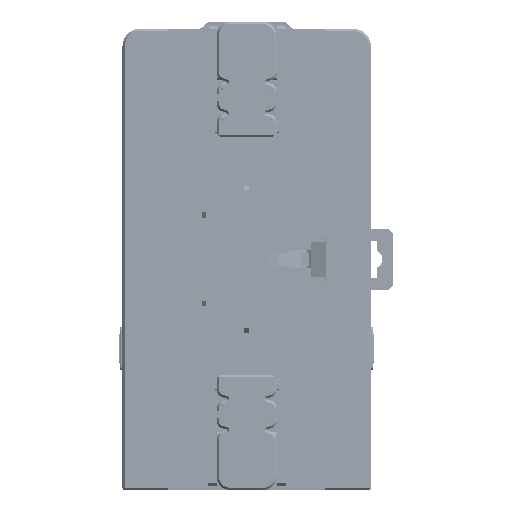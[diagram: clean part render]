
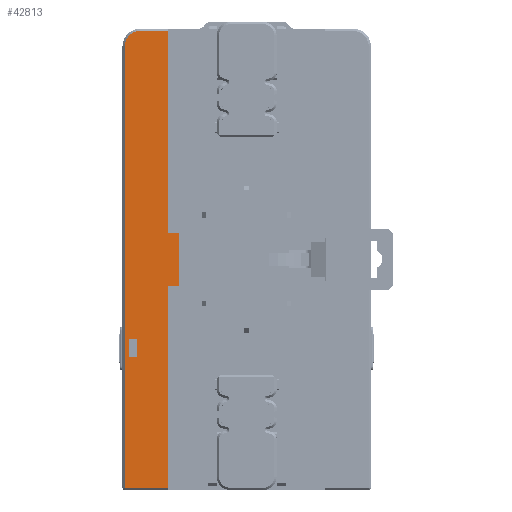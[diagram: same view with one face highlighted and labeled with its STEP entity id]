
A CAD part, front view. The second image highlights one B-rep face of the part: STEP entity #42813.
In plain terms, the highlighted planar face has unit normal (0, -1, 0).
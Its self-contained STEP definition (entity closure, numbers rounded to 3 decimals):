
#42813=ADVANCED_FACE('',(#77049,#77050),#59494,.T.);
#59494=PLANE('',#412074);
#72106=CIRCLE('',#412073,3.5);
#77049=FACE_BOUND('',#91521,.T.);
#77050=FACE_BOUND('',#91522,.T.);
#91521=EDGE_LOOP('',(#169417,#169418,#169419,#169420,#169421,#169422,#169423,
#169424,#169425));
#91522=EDGE_LOOP('',(#169426,#169427,#169428,#169429));
#169417=ORIENTED_EDGE('',*,*,#284828,.T.);
#169418=ORIENTED_EDGE('',*,*,#284829,.T.);
#169419=ORIENTED_EDGE('',*,*,#284830,.F.);
#169420=ORIENTED_EDGE('',*,*,#284831,.F.);
#169421=ORIENTED_EDGE('',*,*,#284832,.F.);
#169422=ORIENTED_EDGE('',*,*,#284833,.F.);
#169423=ORIENTED_EDGE('',*,*,#284834,.F.);
#169424=ORIENTED_EDGE('',*,*,#284835,.T.);
#169425=ORIENTED_EDGE('',*,*,#284836,.T.);
#169426=ORIENTED_EDGE('',*,*,#284668,.T.);
#169427=ORIENTED_EDGE('',*,*,#284827,.T.);
#169428=ORIENTED_EDGE('',*,*,#284837,.F.);
#169429=ORIENTED_EDGE('',*,*,#284838,.F.);
#235709=VERTEX_POINT('',#619127);
#235712=VERTEX_POINT('',#619132);
#235799=VERTEX_POINT('',#619444);
#235800=VERTEX_POINT('',#619448);
#235801=VERTEX_POINT('',#619449);
#235802=VERTEX_POINT('',#619451);
#235803=VERTEX_POINT('',#619453);
#235804=VERTEX_POINT('',#619455);
#235805=VERTEX_POINT('',#619457);
#235806=VERTEX_POINT('',#619459);
#235807=VERTEX_POINT('',#619461);
#235808=VERTEX_POINT('',#619463);
#235809=VERTEX_POINT('',#619466);
#284668=EDGE_CURVE('',#235709,#235712,#332945,.T.);
#284827=EDGE_CURVE('',#235712,#235799,#333088,.T.);
#284828=EDGE_CURVE('',#235800,#235801,#333089,.T.);
#284829=EDGE_CURVE('',#235801,#235802,#333090,.T.);
#284830=EDGE_CURVE('',#235803,#235802,#333091,.T.);
#284831=EDGE_CURVE('',#235804,#235803,#333092,.T.);
#284832=EDGE_CURVE('',#235805,#235804,#333093,.T.);
#284833=EDGE_CURVE('',#235806,#235805,#333094,.T.);
#284834=EDGE_CURVE('',#235807,#235806,#333095,.T.);
#284835=EDGE_CURVE('',#235807,#235808,#333096,.T.);
#284836=EDGE_CURVE('',#235808,#235800,#72106,.T.);
#284837=EDGE_CURVE('',#235809,#235799,#333097,.T.);
#284838=EDGE_CURVE('',#235709,#235809,#333098,.T.);
#332945=LINE('',#619133,#375874);
#333088=LINE('',#619445,#376017);
#333089=LINE('',#619447,#376018);
#333090=LINE('',#619450,#376019);
#333091=LINE('',#619452,#376020);
#333092=LINE('',#619454,#376021);
#333093=LINE('',#619456,#376022);
#333094=LINE('',#619458,#376023);
#333095=LINE('',#619460,#376024);
#333096=LINE('',#619462,#376025);
#333097=LINE('',#619465,#376026);
#333098=LINE('',#619467,#376027);
#375874=VECTOR('',#488153,1.);
#376017=VECTOR('',#488460,1.);
#376018=VECTOR('',#488463,1.);
#376019=VECTOR('',#488464,1.);
#376020=VECTOR('',#488465,1.);
#376021=VECTOR('',#488466,1.);
#376022=VECTOR('',#488467,1.);
#376023=VECTOR('',#488468,1.);
#376024=VECTOR('',#488469,1.);
#376025=VECTOR('',#488470,1.);
#376026=VECTOR('',#488473,1.);
#376027=VECTOR('',#488474,1.);
#412073=AXIS2_PLACEMENT_3D('',#619464,#488471,#488472);
#412074=AXIS2_PLACEMENT_3D('',#619468,#488475,#488476);
#488153=DIRECTION('',(0.,0.,1.));
#488460=DIRECTION('',(1.,0.,0.));
#488463=DIRECTION('',(0.,0.,-1.));
#488464=DIRECTION('',(1.,0.,0.));
#488465=DIRECTION('',(0.,0.,-1.));
#488466=DIRECTION('',(-1.,0.,0.));
#488467=DIRECTION('',(0.,0.,-1.));
#488468=DIRECTION('',(1.,0.,0.));
#488469=DIRECTION('',(0.,0.,-1.));
#488470=DIRECTION('',(-1.,0.,0.));
#488471=DIRECTION('',(0.,-1.,0.));
#488472=DIRECTION('',(0.,0.,-1.));
#488473=DIRECTION('',(0.,0.,1.));
#488474=DIRECTION('',(1.,0.,0.));
#488475=DIRECTION('',(0.,-1.,0.));
#488476=DIRECTION('',(-1.,0.,0.));
#619127=CARTESIAN_POINT('',(-131.11,148.342,-225.934));
#619132=CARTESIAN_POINT('',(-131.11,148.342,-221.934));
#619133=CARTESIAN_POINT('',(-131.11,148.342,-173.362));
#619444=CARTESIAN_POINT('',(-129.41,148.342,-221.934));
#619445=CARTESIAN_POINT('',(-122.338,148.342,-221.934));
#619447=CARTESIAN_POINT('',(-132.088,148.342,-173.362));
#619448=CARTESIAN_POINT('',(-132.088,148.342,-155.862));
#619449=CARTESIAN_POINT('',(-132.088,148.342,-255.362));
#619450=CARTESIAN_POINT('',(-122.338,148.342,-255.362));
#619451=CARTESIAN_POINT('',(-122.338,148.342,-255.362));
#619452=CARTESIAN_POINT('',(-122.338,148.342,-242.862));
#619453=CARTESIAN_POINT('',(-122.338,148.342,-209.862));
#619454=CARTESIAN_POINT('',(-134.719,148.342,-209.862));
#619455=CARTESIAN_POINT('',(-119.88,148.342,-209.862));
#619456=CARTESIAN_POINT('',(-119.88,148.342,-182.36));
#619457=CARTESIAN_POINT('',(-119.88,148.342,-197.862));
#619458=CARTESIAN_POINT('',(-134.719,148.342,-197.862));
#619459=CARTESIAN_POINT('',(-122.338,148.342,-197.862));
#619460=CARTESIAN_POINT('',(-122.338,148.342,-162.612));
#619461=CARTESIAN_POINT('',(-122.338,148.342,-152.362));
#619462=CARTESIAN_POINT('',(-122.338,148.342,-152.362));
#619463=CARTESIAN_POINT('',(-128.588,148.342,-152.362));
#619464=CARTESIAN_POINT('',(-128.588,148.342,-155.862));
#619465=CARTESIAN_POINT('',(-129.41,148.342,-173.362));
#619466=CARTESIAN_POINT('',(-129.41,148.342,-225.934));
#619467=CARTESIAN_POINT('',(-122.338,148.342,-225.934));
#619468=CARTESIAN_POINT('',(-122.338,148.342,-173.362));
